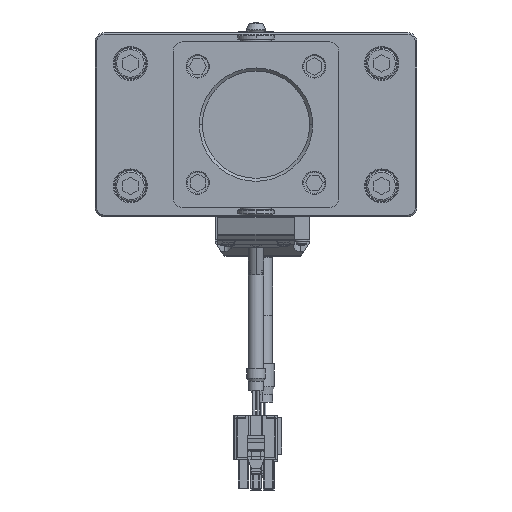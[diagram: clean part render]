
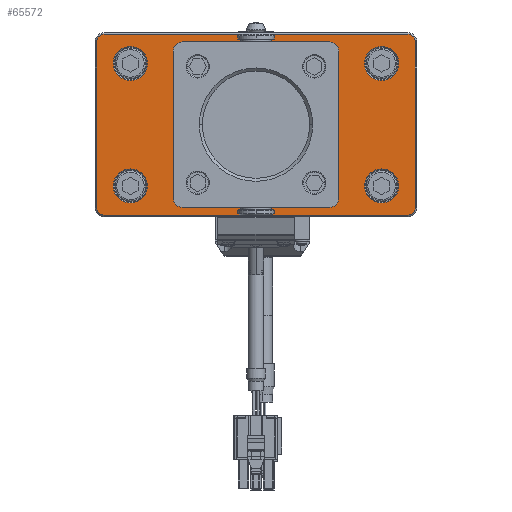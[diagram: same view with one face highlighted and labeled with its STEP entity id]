
A CAD part, front view. The second image highlights one B-rep face of the part: STEP entity #65572.
In plain terms, the highlighted planar face has unit normal (0, -1, 0) as drawn and (0, 1, 0) by its records, which use the part's own axes.
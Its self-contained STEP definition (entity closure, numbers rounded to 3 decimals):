
#64024=CARTESIAN_POINT('',(0.,6.,0.));
#64025=DIRECTION('',(0.,-1.,0.));
#64026=DIRECTION('',(1.,0.,0.));
#64027=AXIS2_PLACEMENT_3D('',#64024,#64025,#64026);
#64029=CARTESIAN_POINT('',(0.,6.,0.));
#64030=DIRECTION('',(0.,-1.,0.));
#64031=DIRECTION('',(-1.,0.,0.));
#64032=AXIS2_PLACEMENT_3D('',#64029,#64030,#64031);
#64034=CARTESIAN_POINT('',(-49.5,6.,-27.));
#64035=DIRECTION('',(0.,1.,0.));
#64036=DIRECTION('',(0.,0.,-1.));
#64037=AXIS2_PLACEMENT_3D('',#64034,#64035,#64036);
#64039=DIRECTION('',(-1.,0.,0.));
#64040=VECTOR('',#64039,99.);
#64041=CARTESIAN_POINT('',(49.5,6.,
-29.5));
#64042=LINE('',#64041,#64040);
#64043=CARTESIAN_POINT('',(49.5,6.,-27.));
#64044=DIRECTION('',(0.,1.,0.));
#64045=DIRECTION('',(1.,0.,0.));
#64046=AXIS2_PLACEMENT_3D('',#64043,#64044,#64045);
#64048=DIRECTION('',(0.,0.,-1.));
#64049=VECTOR('',#64048,54.);
#64050=CARTESIAN_POINT('',(52.,6.,27.));
#64051=LINE('',#64050,#64049);
#64052=CARTESIAN_POINT('',(49.5,6.,27.));
#64053=DIRECTION('',(0.,1.,0.));
#64054=DIRECTION('',(0.,0.,1.));
#64055=AXIS2_PLACEMENT_3D('',#64052,#64053,#64054);
#64057=DIRECTION('',(1.,0.,0.));
#64058=VECTOR('',#64057,99.);
#64059=CARTESIAN_POINT('',(-49.5,6.,
29.5));
#64060=LINE('',#64059,#64058);
#64061=CARTESIAN_POINT('',(-49.5,6.,27.));
#64062=DIRECTION('',(0.,1.,0.));
#64063=DIRECTION('',(-1.,0.,0.));
#64064=AXIS2_PLACEMENT_3D('',#64061,#64062,#64063);
#64066=DIRECTION('',(0.,0.,1.));
#64067=VECTOR('',#64066,54.);
#64068=CARTESIAN_POINT('',(-52.,6.,
-27.));
#64069=LINE('',#64068,#64067);
#64070=CARTESIAN_POINT('',(41.,6.,20.));
#64071=DIRECTION('',(0.,-1.,0.));
#64072=DIRECTION('',(1.,0.,0.));
#64073=AXIS2_PLACEMENT_3D('',#64070,#64071,#64072);
#64075=CARTESIAN_POINT('',(41.,6.,20.));
#64076=DIRECTION('',(0.,-1.,0.));
#64077=DIRECTION('',(-1.,0.,0.));
#64078=AXIS2_PLACEMENT_3D('',#64075,#64076,#64077);
#64080=CARTESIAN_POINT('',(-41.,6.,20.));
#64081=DIRECTION('',(0.,-1.,0.));
#64082=DIRECTION('',(1.,0.,0.));
#64083=AXIS2_PLACEMENT_3D('',#64080,#64081,#64082);
#64085=CARTESIAN_POINT('',(-41.,6.,20.));
#64086=DIRECTION('',(0.,-1.,0.));
#64087=DIRECTION('',(-1.,0.,0.));
#64088=AXIS2_PLACEMENT_3D('',#64085,#64086,#64087);
#64090=CARTESIAN_POINT('',(41.,6.,-20.));
#64091=DIRECTION('',(0.,-1.,0.));
#64092=DIRECTION('',(1.,0.,0.));
#64093=AXIS2_PLACEMENT_3D('',#64090,#64091,#64092);
#64095=CARTESIAN_POINT('',(41.,6.,-20.));
#64096=DIRECTION('',(0.,-1.,0.));
#64097=DIRECTION('',(-1.,0.,0.));
#64098=AXIS2_PLACEMENT_3D('',#64095,#64096,#64097);
#64100=CARTESIAN_POINT('',(-41.,6.,-20.));
#64101=DIRECTION('',(0.,-1.,0.));
#64102=DIRECTION('',(1.,0.,0.));
#64103=AXIS2_PLACEMENT_3D('',#64100,#64101,#64102);
#64105=CARTESIAN_POINT('',(-41.,6.,-20.));
#64106=DIRECTION('',(0.,-1.,0.));
#64107=DIRECTION('',(-1.,0.,0.));
#64108=AXIS2_PLACEMENT_3D('',#64105,#64106,#64107);
#64110=CARTESIAN_POINT('',(-19.,6.,-19.));
#64111=DIRECTION('',(0.,1.,0.));
#64112=DIRECTION('',(1.,0.,0.));
#64113=AXIS2_PLACEMENT_3D('',#64110,#64111,#64112);
#64115=CARTESIAN_POINT('',(-19.,6.,-19.));
#64116=DIRECTION('',(0.,1.,0.));
#64117=DIRECTION('',(-1.,0.,0.));
#64118=AXIS2_PLACEMENT_3D('',#64115,#64116,#64117);
#64120=CARTESIAN_POINT('',(-19.,6.,19.));
#64121=DIRECTION('',(0.,1.,0.));
#64122=DIRECTION('',(0.,0.,-1.));
#64123=AXIS2_PLACEMENT_3D('',#64120,#64121,#64122);
#64125=CARTESIAN_POINT('',(-19.,6.,19.));
#64126=DIRECTION('',(0.,1.,0.));
#64127=DIRECTION('',(0.,0.,1.));
#64128=AXIS2_PLACEMENT_3D('',#64125,#64126,#64127);
#64130=CARTESIAN_POINT('',(19.,6.,19.));
#64131=DIRECTION('',(0.,1.,0.));
#64132=DIRECTION('',(-1.,0.,0.));
#64133=AXIS2_PLACEMENT_3D('',#64130,#64131,#64132);
#64135=CARTESIAN_POINT('',(19.,6.,19.));
#64136=DIRECTION('',(0.,1.,0.));
#64137=DIRECTION('',(1.,0.,0.));
#64138=AXIS2_PLACEMENT_3D('',#64135,#64136,#64137);
#64140=CARTESIAN_POINT('',(19.,6.,-19.));
#64141=DIRECTION('',(0.,1.,0.));
#64142=DIRECTION('',(0.,0.,1.));
#64143=AXIS2_PLACEMENT_3D('',#64140,#64141,#64142);
#64145=CARTESIAN_POINT('',(19.,6.,-19.));
#64146=DIRECTION('',(0.,1.,0.));
#64147=DIRECTION('',(0.,0.,-1.));
#64148=AXIS2_PLACEMENT_3D('',#64145,#64146,#64147);
#65056=CARTESIAN_POINT('',(18.,6.,0.));
#65057=CARTESIAN_POINT('',(-18.,6.,0.));
#65058=VERTEX_POINT('',#65056);
#65059=VERTEX_POINT('',#65057);
#65104=CARTESIAN_POINT('',(-49.5,6.,-29.5));
#65105=CARTESIAN_POINT('',(-52.,6.,-27.));
#65106=VERTEX_POINT('',#65104);
#65107=VERTEX_POINT('',#65105);
#65112=CARTESIAN_POINT('',(-52.,6.,
27.));
#65113=VERTEX_POINT('',#65112);
#65116=CARTESIAN_POINT('',(-49.5,6.,29.5));
#65117=VERTEX_POINT('',#65116);
#65120=CARTESIAN_POINT('',(49.5,6.,29.5));
#65121=VERTEX_POINT('',#65120);
#65124=CARTESIAN_POINT('',(52.,6.,27.));
#65125=VERTEX_POINT('',#65124);
#65128=CARTESIAN_POINT('',(52.,6.,
-27.));
#65129=VERTEX_POINT('',#65128);
#65132=CARTESIAN_POINT('',(49.5,6.,-29.5));
#65133=VERTEX_POINT('',#65132);
#65152=CARTESIAN_POINT('',(46.55,6.,20.));
#65153=CARTESIAN_POINT('',(35.45,6.,20.));
#65154=VERTEX_POINT('',#65152);
#65155=VERTEX_POINT('',#65153);
#65176=CARTESIAN_POINT('',(-35.45,6.,20.));
#65177=CARTESIAN_POINT('',(-46.55,6.,20.));
#65178=VERTEX_POINT('',#65176);
#65179=VERTEX_POINT('',#65177);
#65192=CARTESIAN_POINT('',(46.55,6.,-20.));
#65193=CARTESIAN_POINT('',(35.45,6.,-20.));
#65194=VERTEX_POINT('',#65192);
#65195=VERTEX_POINT('',#65193);
#65200=CARTESIAN_POINT('',(-35.45,6.,-20.));
#65201=CARTESIAN_POINT('',(-46.55,6.,-20.));
#65202=VERTEX_POINT('',#65200);
#65203=VERTEX_POINT('',#65201);
#65300=CARTESIAN_POINT('',(-16.,6.,-19.));
#65301=CARTESIAN_POINT('',(-22.,6.,-19.));
#65302=VERTEX_POINT('',#65300);
#65303=VERTEX_POINT('',#65301);
#65308=CARTESIAN_POINT('',(-19.,6.,16.));
#65309=CARTESIAN_POINT('',(-19.,6.,22.));
#65310=VERTEX_POINT('',#65308);
#65311=VERTEX_POINT('',#65309);
#65316=CARTESIAN_POINT('',(16.,6.,19.));
#65317=CARTESIAN_POINT('',(22.,6.,19.));
#65318=VERTEX_POINT('',#65316);
#65319=VERTEX_POINT('',#65317);
#65324=CARTESIAN_POINT('',(19.,6.,-16.));
#65325=CARTESIAN_POINT('',(19.,6.,-22.));
#65326=VERTEX_POINT('',#65324);
#65327=VERTEX_POINT('',#65325);
#65496=CARTESIAN_POINT('',(0.,6.,0.));
#65497=DIRECTION('',(0.,1.,0.));
#65498=DIRECTION('',(1.,0.,0.));
#65499=AXIS2_PLACEMENT_3D('',#65496,#65497,#65498);
#65500=PLANE('',#65499);
#65502=ORIENTED_EDGE('',*,*,#65501,.F.);
#65504=ORIENTED_EDGE('',*,*,#65503,.F.);
#65506=ORIENTED_EDGE('',*,*,#65505,.F.);
#65508=ORIENTED_EDGE('',*,*,#65507,.F.);
#65510=ORIENTED_EDGE('',*,*,#65509,.F.);
#65512=ORIENTED_EDGE('',*,*,#65511,.F.);
#65514=ORIENTED_EDGE('',*,*,#65513,.F.);
#65516=ORIENTED_EDGE('',*,*,#65515,.F.);
#65517=EDGE_LOOP('',(#65502,#65504,#65506,#65508,#65510,#65512,#65514,#65516));
#65518=FACE_OUTER_BOUND('',#65517,.F.);
#65520=ORIENTED_EDGE('',*,*,#65519,.F.);
#65521=ORIENTED_EDGE('',*,*,#65486,.F.);
#65522=EDGE_LOOP('',(#65520,#65521));
#65523=FACE_BOUND('',#65522,.F.);
#65525=ORIENTED_EDGE('',*,*,#65524,.F.);
#65527=ORIENTED_EDGE('',*,*,#65526,.F.);
#65528=EDGE_LOOP('',(#65525,#65527));
#65529=FACE_BOUND('',#65528,.F.);
#65531=ORIENTED_EDGE('',*,*,#65530,.F.);
#65533=ORIENTED_EDGE('',*,*,#65532,.F.);
#65534=EDGE_LOOP('',(#65531,#65533));
#65535=FACE_BOUND('',#65534,.F.);
#65537=ORIENTED_EDGE('',*,*,#65536,.F.);
#65539=ORIENTED_EDGE('',*,*,#65538,.F.);
#65540=EDGE_LOOP('',(#65537,#65539));
#65541=FACE_BOUND('',#65540,.F.);
#65543=ORIENTED_EDGE('',*,*,#65542,.F.);
#65545=ORIENTED_EDGE('',*,*,#65544,.F.);
#65546=EDGE_LOOP('',(#65543,#65545));
#65547=FACE_BOUND('',#65546,.F.);
#65549=ORIENTED_EDGE('',*,*,#65548,.T.);
#65551=ORIENTED_EDGE('',*,*,#65550,.T.);
#65552=EDGE_LOOP('',(#65549,#65551));
#65553=FACE_BOUND('',#65552,.F.);
#65555=ORIENTED_EDGE('',*,*,#65554,.T.);
#65557=ORIENTED_EDGE('',*,*,#65556,.T.);
#65558=EDGE_LOOP('',(#65555,#65557));
#65559=FACE_BOUND('',#65558,.F.);
#65561=ORIENTED_EDGE('',*,*,#65560,.T.);
#65563=ORIENTED_EDGE('',*,*,#65562,.T.);
#65564=EDGE_LOOP('',(#65561,#65563));
#65565=FACE_BOUND('',#65564,.F.);
#65567=ORIENTED_EDGE('',*,*,#65566,.T.);
#65569=ORIENTED_EDGE('',*,*,#65568,.T.);
#65570=EDGE_LOOP('',(#65567,#65569));
#65571=FACE_BOUND('',#65570,.F.);
#65572=ADVANCED_FACE('',(#65518,#65523,#65529,#65535,#65541,#65547,#65553,
#65559,#65565,#65571),#65500,.T.);
#64028=CIRCLE('',#64027,18.);
#64033=CIRCLE('',#64032,18.);
#64038=CIRCLE('',#64037,2.5);
#64047=CIRCLE('',#64046,2.5);
#64056=CIRCLE('',#64055,2.5);
#64065=CIRCLE('',#64064,2.5);
#64074=CIRCLE('',#64073,5.55);
#64079=CIRCLE('',#64078,5.55);
#64084=CIRCLE('',#64083,5.55);
#64089=CIRCLE('',#64088,5.55);
#64094=CIRCLE('',#64093,5.55);
#64099=CIRCLE('',#64098,5.55);
#64104=CIRCLE('',#64103,5.55);
#64109=CIRCLE('',#64108,5.55);
#64114=CIRCLE('',#64113,3.);
#64119=CIRCLE('',#64118,3.);
#64124=CIRCLE('',#64123,3.);
#64129=CIRCLE('',#64128,3.);
#64134=CIRCLE('',#64133,3.);
#64139=CIRCLE('',#64138,3.);
#64144=CIRCLE('',#64143,3.);
#64149=CIRCLE('',#64148,3.);
#65486=EDGE_CURVE('',#65059,#65058,#64033,.T.);
#65501=EDGE_CURVE('',#65106,#65107,#64038,.T.);
#65503=EDGE_CURVE('',#65133,#65106,#64042,.T.);
#65505=EDGE_CURVE('',#65129,#65133,#64047,.T.);
#65507=EDGE_CURVE('',#65125,#65129,#64051,.T.);
#65509=EDGE_CURVE('',#65121,#65125,#64056,.T.);
#65511=EDGE_CURVE('',#65117,#65121,#64060,.T.);
#65513=EDGE_CURVE('',#65113,#65117,#64065,.T.);
#65515=EDGE_CURVE('',#65107,#65113,#64069,.T.);
#65519=EDGE_CURVE('',#65058,#65059,#64028,.T.);
#65524=EDGE_CURVE('',#65154,#65155,#64074,.T.);
#65526=EDGE_CURVE('',#65155,#65154,#64079,.T.);
#65530=EDGE_CURVE('',#65178,#65179,#64084,.T.);
#65532=EDGE_CURVE('',#65179,#65178,#64089,.T.);
#65536=EDGE_CURVE('',#65194,#65195,#64094,.T.);
#65538=EDGE_CURVE('',#65195,#65194,#64099,.T.);
#65542=EDGE_CURVE('',#65202,#65203,#64104,.T.);
#65544=EDGE_CURVE('',#65203,#65202,#64109,.T.);
#65548=EDGE_CURVE('',#65302,#65303,#64114,.T.);
#65550=EDGE_CURVE('',#65303,#65302,#64119,.T.);
#65554=EDGE_CURVE('',#65310,#65311,#64124,.T.);
#65556=EDGE_CURVE('',#65311,#65310,#64129,.T.);
#65560=EDGE_CURVE('',#65318,#65319,#64134,.T.);
#65562=EDGE_CURVE('',#65319,#65318,#64139,.T.);
#65566=EDGE_CURVE('',#65326,#65327,#64144,.T.);
#65568=EDGE_CURVE('',#65327,#65326,#64149,.T.);
